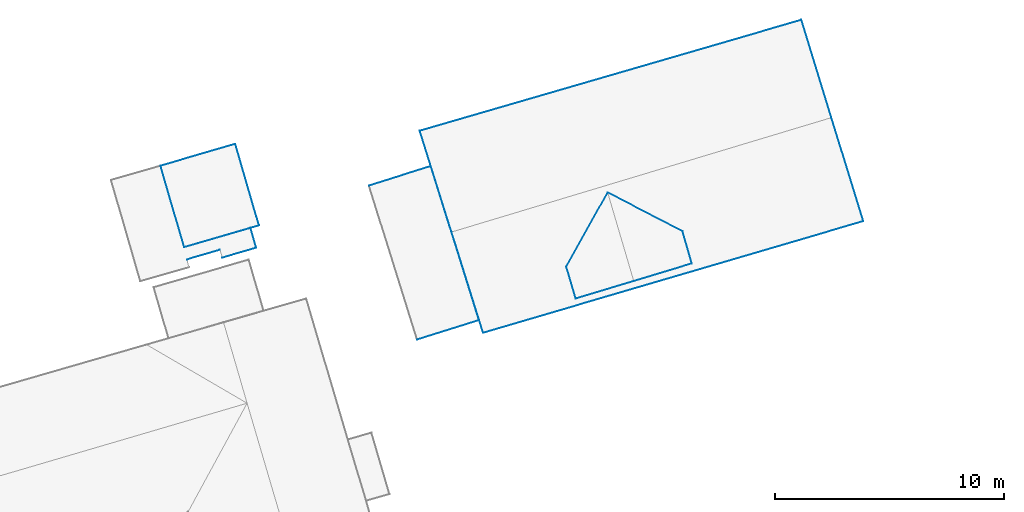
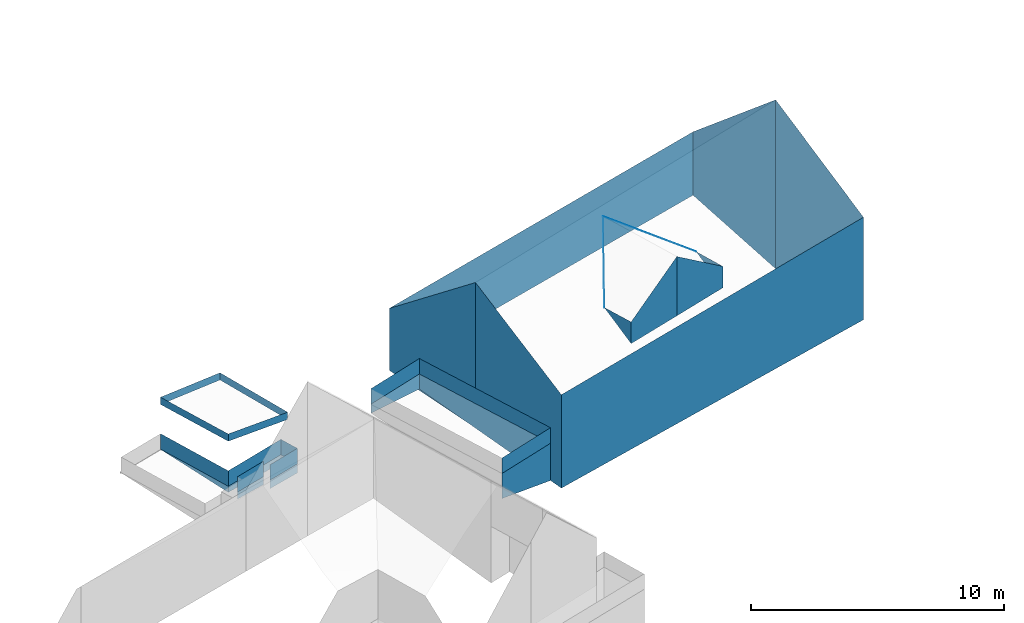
# Not in any storey, part 23 of 57: 44 walls.
"""IFC4 building model written with IfcOpenShell, lengths in metres."""

import ifcopenshell
import ifcopenshell.guid

model = None  # the IFC model being written
_history = None  # IfcOwnerHistory: only IFC2X3 demands one
_inside = {}  # id of a spatial element -> (the spatial element, [elements in it])
_under = {}  # id of a project, library or spatial element -> (it, [spatial elements below it])
_declared = {}  # id of a project -> (the project, [libraries it declares])
_typed = {}  # id of a type object -> (the type object, [elements of that type])
_made_of = {}  # id of a material, layer set ... -> (it, [elements and type objects made of it])


def new_model(schema):
    """Start an empty IFC model of exactly this schema.

    Asked for "IFC4X3", IfcOpenShell would pick the latest addendum, in which some entities
    have other attributes; the version numbers below select the first issue.
    IFC2X3 requires an IfcOwnerHistory on every rooted entity: one is made here for all.
    """
    global model, _history
    if schema == "IFC4X3":
        model = ifcopenshell.file(schema_version=(4, 3, 0, 0))
    else:
        model = ifcopenshell.file(schema=schema)
    _inside.clear()
    _under.clear()
    _declared.clear()
    _typed.clear()
    _made_of.clear()
    _history = None
    if model.schema == "IFC2X3":
        org = make("IfcOrganization", Name="unknown")
        user = make(
            "IfcPersonAndOrganization",
            ThePerson=make("IfcPerson", FamilyName="unknown"),
            TheOrganization=org,
        )
        app = make(
            "IfcApplication",
            ApplicationDeveloper=org,
            Version="unknown",
            ApplicationFullName="unknown",
            ApplicationIdentifier="unknown",
        )
        _history = make(
            "IfcOwnerHistory",
            OwningUser=user,
            OwningApplication=app,
            ChangeAction="ADDED",
            CreationDate=0,
        )
    return model


def make(cls, **values):
    """One entity of the class cls with the attributes given. An attribute that is None is left unset."""
    return model.create_entity(
        cls, **{name: value for name, value in values.items() if value is not None}
    )


def entity(cls, *values):
    """Any entity or typed value of the class cls, its attributes in the order of the schema. None: left unset."""
    e = model.create_entity(cls)
    for i, value in enumerate(values):
        if value is not None:
            e[i] = value
    return e


def rooted(cls, **values):
    """An entity with a GlobalId (a new one), such as an element, a storey or a relation."""
    return make(cls, GlobalId=ifcopenshell.guid.new(), OwnerHistory=_history, **values)


def si_unit(unit_type, name, prefix=None):
    """IfcSIUnit, for example si_unit("LENGTHUNIT", "METRE", prefix="MILLI")."""
    return make("IfcSIUnit", UnitType=unit_type, Prefix=prefix, Name=name)


def converted_unit(unit_type, name, factor, base, dimensions=None, offset=None):
    """IfcConversionBasedUnit, such as the inch: factor (a typed value) times the base unit."""
    return make(
        "IfcConversionBasedUnit"
        if offset is None
        else "IfcConversionBasedUnitWithOffset",
        ConversionOffset=offset,
        Dimensions=None
        if dimensions is None
        else entity("IfcDimensionalExponents", *dimensions),
        UnitType=unit_type,
        Name=name,
        ConversionFactor=make(
            "IfcMeasureWithUnit", ValueComponent=factor, UnitComponent=base
        ),
    )


def assignment(units):
    """IfcUnitAssignment: the units of a project."""
    return None if units is None else make("IfcUnitAssignment", Units=units)


def point(xyz):
    """IfcCartesianPoint."""
    return None if xyz is None else make("IfcCartesianPoint", Coordinates=xyz)


def direction(xyz):
    """IfcDirection."""
    return None if xyz is None else make("IfcDirection", DirectionRatios=xyz)


def frame(location, z_axis=None, x_axis=None):
    """IfcAxis2Placement3D, a coordinate frame: its origin and axes. An axis left out is left unset."""
    return make(
        "IfcAxis2Placement3D",
        Location=point(location),
        Axis=direction(z_axis),
        RefDirection=direction(x_axis),
    )


def origin():
    """The frame at (0, 0, 0) with its axes left unset."""
    return frame((0.0, 0.0, 0.0))


def place(relative_to, where):
    """IfcLocalPlacement: puts the frame where relative to a parent placement (None: the world)."""
    return make(
        "IfcLocalPlacement", PlacementRelTo=relative_to, RelativePlacement=where
    )


def context(
    kind, dimensions, precision=None, world=None, true_north=None, identifier=None
):
    """IfcGeometricRepresentationContext, for example the 3D "Model" context."""
    return make(
        "IfcGeometricRepresentationContext",
        ContextIdentifier=identifier,
        ContextType=kind,
        CoordinateSpaceDimension=dimensions,
        Precision=precision,
        WorldCoordinateSystem=world,
        TrueNorth=true_north,
    )


def subcontext(parent, identifier, kind, view, scale=None):
    """IfcGeometricRepresentationSubContext, for example "Body" below "Model"."""
    return make(
        "IfcGeometricRepresentationSubContext",
        ContextIdentifier=identifier,
        ContextType=kind,
        ParentContext=parent,
        TargetScale=scale,
        TargetView=view,
    )


def project(units=None, contexts=None):
    """IfcProject with its units and contexts."""
    return rooted(
        "IfcProject",
        Name="project",
        RepresentationContexts=contexts,
        UnitsInContext=assignment(units),
    )


def spatial(cls, under=None, at=None, **own):
    """A site, building, storey or space (cls), placed at a placement, below another one or the project."""
    s = rooted(cls, ObjectPlacement=at, **own)
    if under is not None:
        _under.setdefault(under.id(), (under, []))[1].append(s)
    return s


def faces_of(points, faces, orient=None, outer=None):
    """IfcFace entities. A face is a list of loops; a loop is a list of indices into points, from 0.

    orient and outer hold one flag for each loop. By default every Orientation is true, the
    first loop of a face is its IfcFaceOuterBound and the others are IfcFaceBound.
    """
    made = []
    for i, loops in enumerate(faces):
        bounds = []
        for j, loop in enumerate(loops):
            is_outer = j == 0 if outer is None else outer[i][j]
            bounds.append(
                make(
                    "IfcFaceOuterBound" if is_outer else "IfcFaceBound",
                    Bound=make("IfcPolyLoop", Polygon=[points[k] for k in loop]),
                    Orientation=True if orient is None else orient[i][j],
                )
            )
        made.append(make("IfcFace", Bounds=bounds))
    return made


def face_set(faces, orient=None, outer=None):
    """The faces of one IfcConnectedFaceSet. surface_model builds it on its shared points."""
    return ("IfcConnectedFaceSet", faces, orient, outer)


def surface_model(cls, points, shells):
    """IfcFaceBasedSurfaceModel or IfcShellBasedSurfaceModel (cls): surfaces that need not close."""
    shared = [point(p) for p in points]
    made = [make(c, CfsFaces=faces_of(shared, fs, o, b)) for c, fs, o, b in shells]
    if cls == "IfcFaceBasedSurfaceModel":
        return make(cls, FbsmFaces=made)
    return make(cls, SbsmBoundary=made)


def shape(context_of_items, identifier, shape_type, items):
    """IfcShapeRepresentation: the items that make up one representation, for example the "Body"."""
    return make(
        "IfcShapeRepresentation",
        ContextOfItems=context_of_items,
        RepresentationIdentifier=identifier,
        RepresentationType=shape_type,
        Items=items,
    )


def made_of(thing, what):
    """Note that an element or type object is made of a material, layer set ...; save() writes the relation."""
    if what is not None:
        _made_of.setdefault(what.id(), (what, []))[1].append(thing)
    return thing


def element(
    cls,
    number,
    at=None,
    inside=None,
    cuts=None,
    type_object=None,
    material=None,
    context=None,
    identifier="Body",
    shape_type=None,
    held_by="IfcProductDefinitionShape",
    body=None,
    shapes=None,
    **own,
):
    """One element of the class cls, such as IfcWall. Its Tag is "e" and its number.

    at: its placement. inside: the storey or other place that contains it. cuts: it is an
    opening in that element (IfcRelVoidsElement). A single representation is given by context,
    identifier, shape_type and body (its items); several are given by shapes. held_by: the class
    of the entity that holds the representations. save() writes the other relations.
    """
    e = rooted(cls, Tag="e%d" % number, ObjectPlacement=at, **own)
    if body is not None:
        shapes = [shape(context, identifier, shape_type, body)]
    if shapes is not None:
        e.Representation = make(held_by, Representations=shapes)
    if inside is not None:
        _inside.setdefault(inside.id(), (inside, []))[1].append(e)
    if cuts is not None:
        rooted(
            "IfcRelVoidsElement", RelatingBuildingElement=cuts, RelatedOpeningElement=e
        )
    if type_object is not None:
        _typed.setdefault(type_object.id(), (type_object, []))[1].append(e)
    return made_of(e, material)


def aggregate(whole, parts):
    """IfcRelAggregates: a whole, such as a stair, and the parts it consists of."""
    return rooted("IfcRelAggregates", RelatingObject=whole, RelatedObjects=parts)


def save(model, path):
    """Write the relations noted so far, then the file.

    IfcRelAggregates (storeys below a building ...), IfcRelContainedInSpatialStructure (elements
    in a storey), IfcRelDefinesByType, IfcRelAssociatesMaterial and IfcRelDeclares: one each for
    every whole, place, type object, material and project.
    """
    for whole, parts in _under.values():
        aggregate(whole, parts)
    for where, things in _inside.values():
        rooted(
            "IfcRelContainedInSpatialStructure",
            RelatedElements=things,
            RelatingStructure=where,
        )
    for kind, things in _typed.values():
        rooted("IfcRelDefinesByType", RelatedObjects=things, RelatingType=kind)
    for what, things in _made_of.values():
        rooted("IfcRelAssociatesMaterial", RelatedObjects=things, RelatingMaterial=what)
    for by, libraries in _declared.values():
        rooted("IfcRelDeclares", RelatingContext=by, RelatedDefinitions=libraries)
    model.write(path)


model = new_model("IFC4")

# Units and contexts
model_context = context("Model", 3, precision=1e-05, world=origin())
body_context = subcontext(model_context, "Body", "Model", "MODEL_VIEW")
ifc_project = project(units=[converted_unit("PLANEANGLEUNIT", "DEGREE", entity("IfcRatioMeasure", 0.0174532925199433), si_unit("PLANEANGLEUNIT", "RADIAN"), dimensions=[0, 0, 0, 0, 0, 0, 0]), si_unit("AREAUNIT", "SQUARE_METRE"), si_unit("LENGTHUNIT", "METRE")], contexts=[model_context])

# Site, building
site_placement = place(None, origin())
site = spatial("IfcSite", under=ifc_project, at=site_placement, Name="_site")
building_1_placement = place(site_placement, origin())
building_1 = spatial("IfcBuilding", under=site, at=building_1_placement, Name="_building")

# Walls
wall_1_placement = place(building_1_placement, origin())
element("IfcWall", 1, at=wall_1_placement, inside=building_1, Name="Wall", PredefinedType="NOTDEFINED", context=body_context, shape_type="SurfaceModel", body=[
    surface_model("IfcFaceBasedSurfaceModel", [(187.351, 158.117, 119.57), (170.747, 153.242, 119.77), (170.747, 153.242, 115.263), (187.351, 158.117, 114.62)], [face_set([[[0, 1, 2, 3]]])]),
])
wall_2_placement = place(building_1_placement, origin())
element("IfcWall", 2, at=wall_2_placement, inside=building_1, Name="Wall", PredefinedType="NOTDEFINED", context=body_context, shape_type="SurfaceModel", body=[
    surface_model("IfcFaceBasedSurfaceModel", [(165.764, 159.672, 117.155), (168.465, 160.52, 117.155), (168.465, 160.52, 116.431), (165.764, 159.672, 116.726)], [face_set([[[0, 1, 2, 3]]])]),
])
wall_3_placement = place(building_1_placement, origin())
element("IfcWall", 3, at=wall_3_placement, inside=building_1, Name="Wall", PredefinedType="NOTDEFINED", context=body_context, shape_type="SurfaceModel", body=[
    surface_model("IfcFaceBasedSurfaceModel", [(169.369, 157.647, 123.0), (167.981, 162.062, 119.56), (167.981, 162.062, 116.566), (169.369, 157.647, 115.974)], [face_set([[[0, 1, 2, 3]]])]),
])
wall_4_placement = place(building_1_placement, origin())
element("IfcWall", 4, at=wall_4_placement, inside=building_1, Name="Wall", PredefinedType="NOTDEFINED", context=body_context, shape_type="SurfaceModel", body=[
    surface_model("IfcFaceBasedSurfaceModel", [(170.747, 153.242, 119.77), (169.369, 157.647, 123.0), (169.369, 157.647, 115.974), (170.747, 153.242, 115.263)], [face_set([[[0, 1, 2, 3]]])]),
])
wall_5_placement = place(building_1_placement, origin())
element("IfcWall", 5, at=wall_5_placement, inside=building_1, Name="Wall", PredefinedType="NOTDEFINED", context=body_context, shape_type="SurfaceModel", body=[
    surface_model("IfcFaceBasedSurfaceModel", [(185.956, 162.642, 122.98), (187.351, 158.117, 119.57), (187.351, 158.117, 114.62), (185.956, 162.642, 114.822)], [face_set([[[0, 1, 2, 3]]])]),
])
wall_6_placement = place(building_1_placement, origin())
element("IfcWall", 6, at=wall_6_placement, inside=building_1, Name="Wall", PredefinedType="NOTDEFINED", context=body_context, shape_type="SurfaceModel", body=[
    surface_model("IfcFaceBasedSurfaceModel", [(179.456, 157.671, 120.944), (179.863, 156.271, 120.94), (179.863, 156.271, 119.904), (179.456, 157.671, 120.941)], [face_set([[[0, 1, 2, 3]]])]),
])
wall_7_placement = place(building_1_placement, origin())
element("IfcWall", 7, at=wall_7_placement, inside=building_1, Name="Wall", PredefinedType="NOTDEFINED", context=body_context, shape_type="SurfaceModel", body=[
    surface_model("IfcFaceBasedSurfaceModel", [(176.183, 159.368, 122.772), (179.456, 157.671, 120.944), (179.456, 157.671, 120.941), (176.183, 159.368, 122.752)], [face_set([[[0, 1, 2, 3]]])]),
])
wall_8_placement = place(building_1_placement, origin())
element("IfcWall", 8, at=wall_8_placement, inside=building_1, Name="Wall", PredefinedType="NOTDEFINED", context=body_context, shape_type="SurfaceModel", body=[
    surface_model("IfcFaceBasedSurfaceModel", [(170.569, 153.797, 117.155), (167.868, 152.949, 117.155), (167.868, 152.949, 115.947), (170.569, 153.797, 115.356)], [face_set([[[0, 1, 2, 3]]])]),
])
wall_9_placement = place(building_1_placement, origin())
element("IfcWall", 9, at=wall_9_placement, inside=building_1, Name="Wall", PredefinedType="NOTDEFINED", context=body_context, shape_type="SurfaceModel", body=[
    surface_model("IfcFaceBasedSurfaceModel", [(168.465, 160.52, 117.155), (170.569, 153.797, 117.155), (170.569, 153.797, 115.356), (168.465, 160.52, 116.431)], [face_set([[[0, 1, 2, 3]]])]),
])
wall_10_placement = place(building_1_placement, origin())
element("IfcWall", 10, at=wall_10_placement, inside=building_1, Name="Wall", PredefinedType="NOTDEFINED", context=body_context, shape_type="SurfaceModel", body=[
    surface_model("IfcFaceBasedSurfaceModel", [(177.323, 155.5, 122.77), (174.794, 154.738, 120.96), (174.794, 154.738, 119.909), (177.323, 155.5, 119.905)], [face_set([[[0, 1, 2, 3]]])]),
])
wall_11_placement = place(building_1_placement, origin())
element("IfcWall", 11, at=wall_11_placement, inside=building_1, Name="Wall", PredefinedType="NOTDEFINED", context=body_context, shape_type="SurfaceModel", body=[
    surface_model("IfcFaceBasedSurfaceModel", [(174.794, 154.738, 120.96), (174.377, 156.139, 120.957), (174.377, 156.139, 120.949), (174.794, 154.738, 119.909)], [face_set([[[0, 1, 2, 3]]])]),
])
wall_12_placement = place(building_1_placement, origin())
element("IfcWall", 12, at=wall_12_placement, inside=building_1, Name="Wall", PredefinedType="NOTDEFINED", context=body_context, shape_type="SurfaceModel", body=[
    surface_model("IfcFaceBasedSurfaceModel", [(174.377, 156.139, 120.957), (176.183, 159.368, 122.772), (176.183, 159.368, 122.752), (174.377, 156.139, 120.949)], [face_set([[[0, 1, 2, 3]]])]),
])
wall_13_placement = place(building_1_placement, origin())
element("IfcWall", 13, at=wall_13_placement, inside=building_1, Name="Wall", PredefinedType="NOTDEFINED", context=body_context, shape_type="SurfaceModel", body=[
    surface_model("IfcFaceBasedSurfaceModel", [(179.863, 156.271, 120.94), (177.323, 155.5, 122.77), (177.323, 155.5, 119.905), (179.863, 156.271, 119.904)], [face_set([[[0, 1, 2, 3]]])]),
])
wall_14_placement = place(building_1_placement, origin())
element("IfcWall", 14, at=wall_14_placement, inside=building_1, Name="Wall", PredefinedType="NOTDEFINED", context=body_context, shape_type="SurfaceModel", body=[
    surface_model("IfcFaceBasedSurfaceModel", [(184.645, 166.905, 119.31), (185.956, 162.642, 122.98), (185.956, 162.642, 114.822), (184.645, 166.905, 116.249)], [face_set([[[0, 1, 2, 3]]])]),
])
wall_15_placement = place(building_1_placement, origin())
element("IfcWall", 15, at=wall_15_placement, inside=building_1, Name="Wall", PredefinedType="NOTDEFINED", context=body_context, shape_type="SurfaceModel", body=[
    surface_model("IfcFaceBasedSurfaceModel", [(167.981, 162.062, 119.56), (184.645, 166.905, 119.31), (184.645, 166.905, 116.249), (167.981, 162.062, 116.566)], [face_set([[[0, 1, 2, 3]]])]),
])
wall_16_placement = place(building_1_placement, origin())
element("IfcWall", 16, at=wall_16_placement, inside=building_1, Name="Wall", PredefinedType="NOTDEFINED", context=body_context, shape_type="SurfaceModel", body=[
    surface_model("IfcFaceBasedSurfaceModel", [(165.764, 159.672, 117.155), (168.465, 160.52, 117.155), (168.465, 160.52, 117.905), (165.764, 159.672, 117.905)], [face_set([[[0, 1, 2, 3]]])]),
])
wall_17_placement = place(building_1_placement, origin())
element("IfcWall", 17, at=wall_17_placement, inside=building_1, Name="Wall", PredefinedType="NOTDEFINED", context=body_context, shape_type="SurfaceModel", body=[
    surface_model("IfcFaceBasedSurfaceModel", [(170.569, 153.797, 117.155), (167.868, 152.949, 117.155), (167.868, 152.949, 117.905), (170.569, 153.797, 117.905)], [face_set([[[0, 1, 2, 3]]])]),
])
for number, where, name in (
    (18, (0.0, 0.0, 0.0), "Wall"),
    (19, (0.0, 0.0, 0.0), "Wall"),
):
    element("IfcWall", number, at=place(building_1_placement, frame(where)), inside=building_1, Name=name, PredefinedType="NOTDEFINED", context=body_context, shape_type="SurfaceModel", body=[
        surface_model("IfcFaceBasedSurfaceModel", [(168.465, 160.52, 117.155), (170.569, 153.797, 117.155), (170.569, 153.797, 117.905), (168.465, 160.52, 117.905)], [face_set([[[0, 1, 2, 3]]])]),
    ])
wall_18_placement = place(building_1_placement, origin())
element("IfcWall", 20, at=wall_18_placement, inside=building_1, Name="Wall", PredefinedType="NOTDEFINED", context=body_context, shape_type="SurfaceModel", body=[
    surface_model("IfcFaceBasedSurfaceModel", [(165.764, 159.672, 117.155), (168.465, 160.52, 117.155), (168.465, 160.52, 117.905), (165.764, 159.672, 117.905)], [face_set([[[0, 1, 2, 3]]])]),
])
wall_19_placement = place(building_1_placement, origin())
element("IfcWall", 21, at=wall_19_placement, inside=building_1, Name="Wall", PredefinedType="NOTDEFINED", context=body_context, shape_type="SurfaceModel", body=[
    surface_model("IfcFaceBasedSurfaceModel", [(170.569, 153.797, 117.155), (167.868, 152.949, 117.155), (167.868, 152.949, 117.905), (170.569, 153.797, 117.905)], [face_set([[[0, 1, 2, 3]]])]),
])

# Building
building_2_placement = place(site_placement, origin())
building_2 = spatial("IfcBuilding", under=site, at=building_2_placement, Name="_building")

# Walls
wall_20_placement = place(building_2_placement, origin())
element("IfcWall", 22, at=wall_20_placement, inside=building_2, Name="Wall", PredefinedType="NOTDEFINED", context=body_context, shape_type="SurfaceModel", body=[
    surface_model("IfcFaceBasedSurfaceModel", [(156.659, 160.536, 120.16), (159.923, 161.49, 119.62), (159.923, 161.49, 119.27), (156.659, 160.536, 119.81)], [face_set([[[0, 1, 2, 3]]])]),
])
wall_21_placement = place(building_2_placement, origin())
element("IfcWall", 23, at=wall_21_placement, inside=building_2, Name="Wall", PredefinedType="NOTDEFINED", context=body_context, shape_type="SurfaceModel", body=[
    surface_model("IfcFaceBasedSurfaceModel", [(157.696, 156.98, 120.18), (156.659, 160.536, 120.16), (156.659, 160.536, 119.81), (157.696, 156.98, 119.83)], [face_set([[[0, 1, 2, 3]]])]),
])
wall_22_placement = place(building_2_placement, origin())
element("IfcWall", 24, at=wall_22_placement, inside=building_2, Name="Wall", PredefinedType="NOTDEFINED", context=body_context, shape_type="SurfaceModel", body=[
    surface_model("IfcFaceBasedSurfaceModel", [(160.96, 157.934, 119.51), (157.696, 156.98, 120.18), (157.696, 156.98, 119.83), (160.96, 157.934, 119.16)], [face_set([[[0, 1, 2, 3]]])]),
])
wall_23_placement = place(building_2_placement, origin())
element("IfcWall", 25, at=wall_23_placement, inside=building_2, Name="Wall", PredefinedType="NOTDEFINED", context=body_context, shape_type="SurfaceModel", body=[
    surface_model("IfcFaceBasedSurfaceModel", [(159.923, 161.49, 119.62), (160.96, 157.934, 119.51), (160.96, 157.934, 119.16), (159.923, 161.49, 119.27)], [face_set([[[0, 1, 2, 3]]])]),
])
wall_24_placement = place(building_2_placement, origin())
element("IfcWall", 26, at=wall_24_placement, inside=building_2, Name="Wall", PredefinedType="NOTDEFINED", context=body_context, shape_type="SurfaceModel", body=[
    surface_model("IfcFaceBasedSurfaceModel", [(156.659, 160.536, 120.16), (159.923, 161.49, 119.62), (159.923, 161.49, 119.27), (156.659, 160.536, 119.81)], [face_set([[[0, 1, 2, 3]]])]),
])
wall_25_placement = place(building_2_placement, origin())
element("IfcWall", 27, at=wall_25_placement, inside=building_2, Name="Wall", PredefinedType="NOTDEFINED", context=body_context, shape_type="SurfaceModel", body=[
    surface_model("IfcFaceBasedSurfaceModel", [(157.696, 156.98, 120.18), (156.659, 160.536, 120.16), (156.659, 160.536, 119.81), (157.696, 156.98, 119.83)], [face_set([[[0, 1, 2, 3]]])]),
])
wall_26_placement = place(building_2_placement, origin())
element("IfcWall", 28, at=wall_26_placement, inside=building_2, Name="Wall", PredefinedType="NOTDEFINED", context=body_context, shape_type="SurfaceModel", body=[
    surface_model("IfcFaceBasedSurfaceModel", [(160.96, 157.934, 119.51), (157.696, 156.98, 120.18), (157.696, 156.98, 119.83), (160.96, 157.934, 119.16)], [face_set([[[0, 1, 2, 3]]])]),
])
wall_27_placement = place(building_2_placement, origin())
element("IfcWall", 29, at=wall_27_placement, inside=building_2, Name="Wall", PredefinedType="NOTDEFINED", context=body_context, shape_type="SurfaceModel", body=[
    surface_model("IfcFaceBasedSurfaceModel", [(160.588, 157.823, 117.65), (160.837, 156.956, 117.65), (160.837, 156.956, 117.213), (160.588, 157.823, 117.249)], [face_set([[[0, 1, 2, 3]]])]),
])
wall_28_placement = place(building_2_placement, origin())
element("IfcWall", 30, at=wall_28_placement, inside=building_2, Name="Wall", PredefinedType="NOTDEFINED", context=body_context, shape_type="SurfaceModel", body=[
    surface_model("IfcFaceBasedSurfaceModel", [(159.244, 156.863, 117.65), (157.814, 156.446, 117.65), (157.814, 156.446, 117.323), (159.244, 156.863, 117.268)], [face_set([[[0, 1, 2, 3]]])]),
])
wall_29_placement = place(building_2_placement, origin())
element("IfcWall", 31, at=wall_29_placement, inside=building_2, Name="Wall", PredefinedType="NOTDEFINED", context=body_context, shape_type="SurfaceModel", body=[
    surface_model("IfcFaceBasedSurfaceModel", [(160.837, 156.956, 117.65), (159.346, 156.521, 117.65), (159.346, 156.521, 117.245), (160.837, 156.956, 117.213)], [face_set([[[0, 1, 2, 3]]])]),
])
wall_30_placement = place(building_2_placement, origin())
element("IfcWall", 32, at=wall_30_placement, inside=building_2, Name="Wall", PredefinedType="NOTDEFINED", context=body_context, shape_type="SurfaceModel", body=[
    surface_model("IfcFaceBasedSurfaceModel", [(157.696, 156.98, 117.65), (160.588, 157.823, 117.65), (160.588, 157.823, 117.249), (157.696, 156.98, 117.362)], [face_set([[[0, 1, 2, 3]]])]),
])
wall_31_placement = place(building_2_placement, origin())
element("IfcWall", 33, at=wall_31_placement, inside=building_2, Name="Wall", PredefinedType="NOTDEFINED", context=body_context, shape_type="SurfaceModel", body=[
    surface_model("IfcFaceBasedSurfaceModel", [(156.659, 160.536, 117.65), (157.696, 156.98, 117.65), (157.696, 156.98, 117.362), (156.659, 160.536, 117.635)], [face_set([[[0, 1, 2, 3]]])]),
])
wall_32_placement = place(building_2_placement, origin())
element("IfcWall", 34, at=wall_32_placement, inside=building_2, Name="Wall", PredefinedType="NOTDEFINED", context=body_context, shape_type="SurfaceModel", body=[
    surface_model("IfcFaceBasedSurfaceModel", [(159.244, 156.863, 117.65), (157.814, 156.446, 117.65), (157.814, 156.446, 118.4), (159.244, 156.863, 118.4)], [face_set([[[0, 1, 2, 3]]])]),
])
wall_33_placement = place(building_2_placement, origin())
element("IfcWall", 35, at=wall_33_placement, inside=building_2, Name="Wall", PredefinedType="NOTDEFINED", context=body_context, shape_type="SurfaceModel", body=[
    surface_model("IfcFaceBasedSurfaceModel", [(160.837, 156.956, 117.65), (159.346, 156.521, 117.65), (159.346, 156.521, 118.4), (160.837, 156.956, 118.4)], [face_set([[[0, 1, 2, 3]]])]),
])
wall_34_placement = place(building_2_placement, origin())
element("IfcWall", 36, at=wall_34_placement, inside=building_2, Name="Wall", PredefinedType="NOTDEFINED", context=body_context, shape_type="SurfaceModel", body=[
    surface_model("IfcFaceBasedSurfaceModel", [(160.588, 157.823, 117.65), (160.837, 156.956, 117.65), (160.837, 156.956, 118.4), (160.588, 157.823, 118.4)], [face_set([[[0, 1, 2, 3]]])]),
])
wall_35_placement = place(building_2_placement, origin())
element("IfcWall", 37, at=wall_35_placement, inside=building_2, Name="Wall", PredefinedType="NOTDEFINED", context=body_context, shape_type="SurfaceModel", body=[
    surface_model("IfcFaceBasedSurfaceModel", [(157.696, 156.98, 117.65), (160.588, 157.823, 117.65), (160.588, 157.823, 118.4), (157.696, 156.98, 118.4)], [face_set([[[0, 1, 2, 3]]])]),
])
wall_36_placement = place(building_2_placement, origin())
element("IfcWall", 38, at=wall_36_placement, inside=building_2, Name="Wall", PredefinedType="NOTDEFINED", context=body_context, shape_type="SurfaceModel", body=[
    surface_model("IfcFaceBasedSurfaceModel", [(156.659, 160.536, 117.65), (157.696, 156.98, 117.65), (157.696, 156.98, 118.4), (156.659, 160.536, 118.4)], [face_set([[[0, 1, 2, 3]]])]),
])
wall_37_placement = place(building_2_placement, origin())
element("IfcWall", 39, at=wall_37_placement, inside=building_2, Name="Wall", PredefinedType="NOTDEFINED", context=body_context, shape_type="SurfaceModel", body=[
    surface_model("IfcFaceBasedSurfaceModel", [(159.244, 156.863, 117.65), (157.814, 156.446, 117.65), (157.814, 156.446, 118.4), (159.244, 156.863, 118.4)], [face_set([[[0, 1, 2, 3]]])]),
])
wall_38_placement = place(building_2_placement, origin())
element("IfcWall", 40, at=wall_38_placement, inside=building_2, Name="Wall", PredefinedType="NOTDEFINED", context=body_context, shape_type="SurfaceModel", body=[
    surface_model("IfcFaceBasedSurfaceModel", [(160.837, 156.956, 117.65), (159.346, 156.521, 117.65), (159.346, 156.521, 118.4), (160.837, 156.956, 118.4)], [face_set([[[0, 1, 2, 3]]])]),
])
wall_39_placement = place(building_2_placement, origin())
element("IfcWall", 41, at=wall_39_placement, inside=building_2, Name="Wall", PredefinedType="NOTDEFINED", context=body_context, shape_type="SurfaceModel", body=[
    surface_model("IfcFaceBasedSurfaceModel", [(160.588, 157.823, 117.65), (160.837, 156.956, 117.65), (160.837, 156.956, 118.4), (160.588, 157.823, 118.4)], [face_set([[[0, 1, 2, 3]]])]),
])
wall_40_placement = place(building_2_placement, origin())
element("IfcWall", 42, at=wall_40_placement, inside=building_2, Name="Wall", PredefinedType="NOTDEFINED", context=body_context, shape_type="SurfaceModel", body=[
    surface_model("IfcFaceBasedSurfaceModel", [(157.696, 156.98, 117.65), (160.588, 157.823, 117.65), (160.588, 157.823, 118.4), (157.696, 156.98, 118.4)], [face_set([[[0, 1, 2, 3]]])]),
])
wall_41_placement = place(building_2_placement, origin())
element("IfcWall", 43, at=wall_41_placement, inside=building_2, Name="Wall", PredefinedType="NOTDEFINED", context=body_context, shape_type="SurfaceModel", body=[
    surface_model("IfcFaceBasedSurfaceModel", [(156.659, 160.536, 117.65), (157.696, 156.98, 117.65), (157.696, 156.98, 118.4), (156.659, 160.536, 118.4)], [face_set([[[0, 1, 2, 3]]])]),
])
wall_42_placement = place(building_2_placement, origin())
element("IfcWall", 44, at=wall_42_placement, inside=building_2, Name="Wall", PredefinedType="NOTDEFINED", context=body_context, shape_type="SurfaceModel", body=[
    surface_model("IfcFaceBasedSurfaceModel", [(159.923, 161.49, 119.62), (160.96, 157.934, 119.51), (160.96, 157.934, 119.16), (159.923, 161.49, 119.27)], [face_set([[[0, 1, 2, 3]]])]),
])

save(model, "model.ifc")
